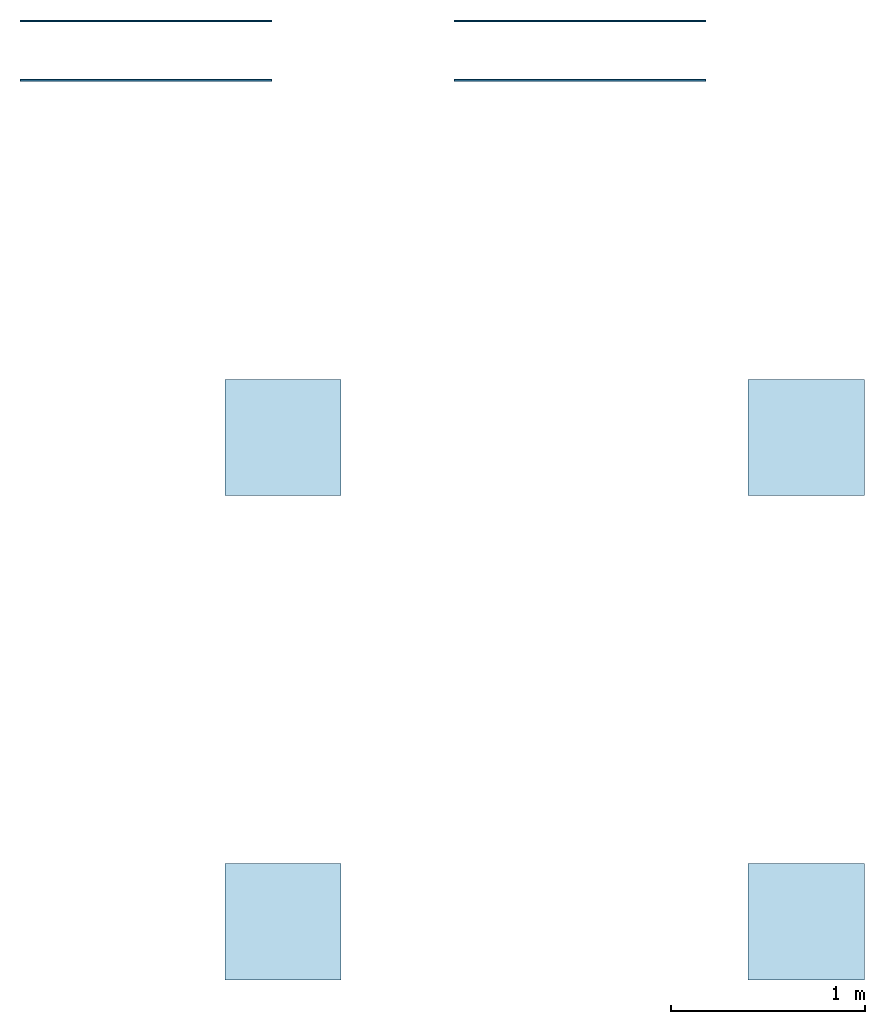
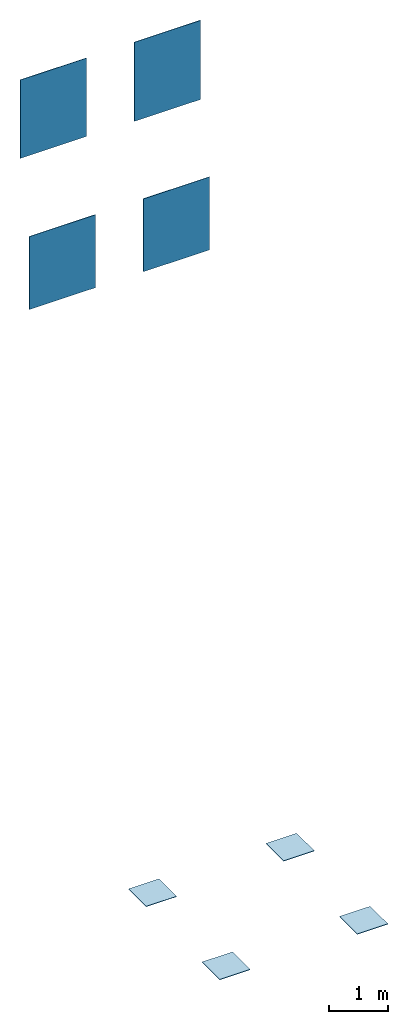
# One storey: 4 slabs, 4 walls.
"""IFC2X3 building model written with IfcOpenShell, lengths in millimetres."""

from ifc_helpers import new_model, entity, si_unit, converted_unit, derived_unit, direction, frame, frame_2d, origin, origin_2d_with_axis, place, context, subcontext, project, spatial, rectangle, extrude, material, layer, layer_set, layer_usage, type_object, element, save


model = new_model("IFC2X3")

# Units and contexts
model_context = context("Model", 3, precision=0.01, world=origin(), true_north=direction((6.12303176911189e-17, 1.0)))
body_context = subcontext(model_context, "Body", "Model", "MODEL_VIEW")
ifc_project = project(units=[si_unit("LENGTHUNIT", "METRE", prefix="MILLI"), si_unit("AREAUNIT", "SQUARE_METRE"), si_unit("VOLUMEUNIT", "CUBIC_METRE"), converted_unit("PLANEANGLEUNIT", "DEGREE", entity("IfcRatioMeasure", 0.0174532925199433), si_unit("PLANEANGLEUNIT", "RADIAN"), dimensions=[0, 0, 0, 0, 0, 0, 0]), si_unit("MASSUNIT", "GRAM", prefix="KILO"), derived_unit("MASSDENSITYUNIT", [(si_unit("MASSUNIT", "GRAM", prefix="KILO"), 1), (si_unit("LENGTHUNIT", "METRE"), -3)]), derived_unit("MOMENTOFINERTIAUNIT", [(si_unit("LENGTHUNIT", "METRE"), 4)]), si_unit("TIMEUNIT", "SECOND"), si_unit("FREQUENCYUNIT", "HERTZ"), si_unit("THERMODYNAMICTEMPERATUREUNIT", "DEGREE_CELSIUS"), derived_unit("THERMALTRANSMITTANCEUNIT", [(si_unit("MASSUNIT", "GRAM", prefix="KILO"), 1), (si_unit("THERMODYNAMICTEMPERATUREUNIT", "KELVIN"), -1), (si_unit("TIMEUNIT", "SECOND"), -3)]), derived_unit("VOLUMETRICFLOWRATEUNIT", [(si_unit("LENGTHUNIT", "METRE"), 3), (si_unit("TIMEUNIT", "SECOND"), -1)]), si_unit("ELECTRICCURRENTUNIT", "AMPERE"), si_unit("ELECTRICVOLTAGEUNIT", "VOLT"), si_unit("POWERUNIT", "WATT"), si_unit("FORCEUNIT", "NEWTON", prefix="KILO"), si_unit("ILLUMINANCEUNIT", "LUX"), si_unit("LUMINOUSFLUXUNIT", "LUMEN"), si_unit("LUMINOUSINTENSITYUNIT", "CANDELA"), derived_unit("USERDEFINED", [(si_unit("MASSUNIT", "GRAM", prefix="KILO"), -1), (si_unit("LENGTHUNIT", "METRE"), -2), (si_unit("TIMEUNIT", "SECOND"), 3), (si_unit("LUMINOUSFLUXUNIT", "LUMEN"), 1)]), derived_unit("LINEARVELOCITYUNIT", [(si_unit("LENGTHUNIT", "METRE"), 1), (si_unit("TIMEUNIT", "SECOND"), -1)]), si_unit("PRESSUREUNIT", "PASCAL"), derived_unit("USERDEFINED", [(si_unit("LENGTHUNIT", "METRE"), -2), (si_unit("MASSUNIT", "GRAM", prefix="KILO"), 1), (si_unit("TIMEUNIT", "SECOND"), -2)]), derived_unit("LINEARFORCEUNIT", [(si_unit("MASSUNIT", "GRAM", prefix="KILO"), 1), (si_unit("LENGTHUNIT", "METRE"), 1), (si_unit("TIMEUNIT", "SECOND"), -2), (si_unit("LENGTHUNIT", "METRE"), -1)]), derived_unit("PLANARFORCEUNIT", [(si_unit("MASSUNIT", "GRAM", prefix="KILO"), 1), (si_unit("LENGTHUNIT", "METRE"), 1), (si_unit("TIMEUNIT", "SECOND"), -2), (si_unit("LENGTHUNIT", "METRE"), -2)])], contexts=[model_context])

# Site, building, storey
site_placement = place(None, origin())
site = spatial("IfcSite", under=ifc_project, at=site_placement, Name="Default", CompositionType="ELEMENT")
building_placement = place(site_placement, origin())
building = spatial("IfcBuilding", under=site, at=building_placement, CompositionType="ELEMENT")
storey_placement = place(building_placement, origin())
storey = spatial("IfcBuildingStorey", under=building, at=storey_placement, Name="Level 0", CompositionType="ELEMENT", Elevation=0.0)

# Slabs
ifc_material_1 = material(Name="Flake-Dark-Medium-60x60 MK60")
ifc_layer_1 = layer(ifc_material_1, 9.0)
ifc_material_2 = material(Name="<Unnamed>")
ifc_layer_2 = layer(ifc_material_2, 1.0)
ifc_layer_set_1 = layer_set([ifc_layer_1, ifc_layer_2], Name="Floor:Floor_Tiles_Refin-Flake-Dark-Medium-60x60 MK60")
ifc_layer_usage_1 = layer_usage(ifc_layer_set_1, "AXIS3", "POSITIVE", 0.0)
slab_type_1 = type_object("IfcSlabType", Name="Floor:Floor_Tiles_Refin-Flake-Dark-Medium-60x60 MK60", PredefinedType="FLOOR", material=ifc_layer_set_1)
slab_1_placement = place(storey_placement, origin())
element("IfcSlab", 1, at=slab_1_placement, inside=storey, type_object=slab_type_1, material=ifc_layer_usage_1, Name="Floor:Floor_Tiles_Refin-Flake-Dark-Medium-60x60 MK60", ObjectType="Floor:Floor_Tiles_Refin-Flake-Dark-Medium-60x60 MK60", PredefinedType="FLOOR", context=body_context, shape_type="SweptSolid", body=[
    extrude(rectangle(XDim=600.0, YDim=600.0, at=origin_2d_with_axis()), frame((7274.37520617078, 5988.41920639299, 0.0), z_axis=(0.0, 0.0, -1.0), x_axis=(0.0, 1.0, 0.0)), (0.0, 0.0, 1.0), 10.0),
])
ifc_material_3 = material(Name="Flake-Dark-Medium-Soft-60x60 MK59")
ifc_layer_3 = layer(ifc_material_3, 9.0)
ifc_layer_4 = layer(ifc_material_2, 1.0)
ifc_layer_set_2 = layer_set([ifc_layer_3, ifc_layer_4], Name="Floor:Floor_Tiles_Refin-Flake-Dark-Medium-Soft-60x60 MK59")
ifc_layer_usage_2 = layer_usage(ifc_layer_set_2, "AXIS3", "POSITIVE", 0.0)
slab_type_2 = type_object("IfcSlabType", Name="Floor:Floor_Tiles_Refin-Flake-Dark-Medium-Soft-60x60 MK59", PredefinedType="FLOOR", material=ifc_layer_set_2)
slab_2_placement = place(storey_placement, origin())
element("IfcSlab", 2, at=slab_2_placement, inside=storey, type_object=slab_type_2, material=ifc_layer_usage_2, Name="Floor:Floor_Tiles_Refin-Flake-Dark-Medium-Soft-60x60 MK59", ObjectType="Floor:Floor_Tiles_Refin-Flake-Dark-Medium-Soft-60x60 MK59", PredefinedType="FLOOR", context=body_context, shape_type="SweptSolid", body=[
    extrude(rectangle(XDim=600.0, YDim=600.0, at=frame_2d((0.0, 1.08002495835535e-12), x_axis=(1.0, 0.0))), frame((9974.37520617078, 5988.41920639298, 0.0), z_axis=(0.0, 0.0, -1.0), x_axis=(0.0, 1.0, 0.0)), (0.0, 0.0, 1.0), 10.0),
])
ifc_material_4 = material(Name="Flake-Dark-Small-60x60 MK68")
ifc_layer_5 = layer(ifc_material_4, 9.0)
ifc_layer_6 = layer(ifc_material_2, 1.0)
ifc_layer_set_3 = layer_set([ifc_layer_5, ifc_layer_6], Name="Floor:Floor_Tiles_Refin-Flake-Dark-Small-60x60 MK68")
ifc_layer_usage_3 = layer_usage(ifc_layer_set_3, "AXIS3", "POSITIVE", 0.0)
slab_type_3 = type_object("IfcSlabType", Name="Floor:Floor_Tiles_Refin-Flake-Dark-Small-60x60 MK68", PredefinedType="FLOOR", material=ifc_layer_set_3)
slab_3_placement = place(storey_placement, origin())
element("IfcSlab", 3, at=slab_3_placement, inside=storey, type_object=slab_type_3, material=ifc_layer_usage_3, Name="Floor:Floor_Tiles_Refin-Flake-Dark-Small-60x60 MK68", ObjectType="Floor:Floor_Tiles_Refin-Flake-Dark-Small-60x60 MK68", PredefinedType="FLOOR", context=body_context, shape_type="SweptSolid", body=[
    extrude(rectangle(XDim=600.0, YDim=600.0, at=origin_2d_with_axis()), frame((7274.37520617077, 3488.41920639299, 0.0), z_axis=(0.0, 0.0, -1.0), x_axis=(0.0, 1.0, 0.0)), (0.0, 0.0, 1.0), 10.0),
])
ifc_material_5 = material(Name="Flake-Dark-Small-Soft-60x60 MK67")
ifc_layer_7 = layer(ifc_material_5, 9.0)
ifc_layer_8 = layer(ifc_material_2, 1.0)
ifc_layer_set_4 = layer_set([ifc_layer_7, ifc_layer_8], Name="Floor:Floor_Tiles_Refin-Flake-Dark-Small-Soft-60x60 MK67")
ifc_layer_usage_4 = layer_usage(ifc_layer_set_4, "AXIS3", "POSITIVE", 0.0)
slab_type_4 = type_object("IfcSlabType", Name="Floor:Floor_Tiles_Refin-Flake-Dark-Small-Soft-60x60 MK67", PredefinedType="FLOOR", material=ifc_layer_set_4)
slab_4_placement = place(storey_placement, origin())
element("IfcSlab", 4, at=slab_4_placement, inside=storey, type_object=slab_type_4, material=ifc_layer_usage_4, Name="Floor:Floor_Tiles_Refin-Flake-Dark-Small-Soft-60x60 MK67", ObjectType="Floor:Floor_Tiles_Refin-Flake-Dark-Small-Soft-60x60 MK67", PredefinedType="FLOOR", context=body_context, shape_type="SweptSolid", body=[
    extrude(rectangle(XDim=600.0, YDim=600.0, at=frame_2d((0.0, 1.08002495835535e-12), x_axis=(1.0, 0.0))), frame((9974.37520617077, 3488.41920639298, 0.0), z_axis=(0.0, 0.0, -1.0), x_axis=(0.0, 1.0, 0.0)), (0.0, 0.0, 1.0), 10.0),
])

# Walls
ifc_layer_9 = layer(ifc_material_2, 1.0)
ifc_layer_10 = layer(ifc_material_3, 9.0)
ifc_layer_set_5 = layer_set([ifc_layer_9, ifc_layer_10], Name="Basic Wall:Wall_Tiles_Refin-Flake-Dark-Medium-Soft-60x60 MK59")
ifc_layer_usage_5 = layer_usage(ifc_layer_set_5, "AXIS2", "NEGATIVE", 5.0)
wall_type_1 = type_object("IfcWallType", Name="Basic Wall:Wall_Tiles_Refin-Flake-Dark-Medium-Soft-60x60 MK59", PredefinedType="STANDARD", material=ifc_layer_set_5)
wall_1_placement = place(storey_placement, frame((8157.37520617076, 8137.38386313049, 14387.6770443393)))
element("IfcWallStandardCase", 5, at=wall_1_placement, inside=storey, type_object=wall_type_1, material=ifc_layer_usage_5, Name="Basic Wall:Wall_Tiles_Refin-Flake-Dark-Medium-Soft-60x60 MK59", ObjectType="Basic Wall:Wall_Tiles_Refin-Flake-Dark-Medium-Soft-60x60 MK59", context=body_context, shape_type="SweptSolid", body=[
    extrude(rectangle(XDim=1300.0, YDim=9.99999999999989, at=frame_2d((650.0, 7.63833440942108e-14), x_axis=(-1.0, 0.0))), origin(), (0.0, 0.0, 1.0), 1641.74173522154),
])
ifc_layer_11 = layer(ifc_material_2, 1.0)
ifc_layer_12 = layer(ifc_material_1, 9.0)
ifc_layer_set_6 = layer_set([ifc_layer_11, ifc_layer_12], Name="Basic Wall:Wall_Tiles_Refin-Flake-Dark-Medium-60x60 MK60")
ifc_layer_usage_6 = layer_usage(ifc_layer_set_6, "AXIS2", "NEGATIVE", 5.0)
wall_type_2 = type_object("IfcWallType", Name="Basic Wall:Wall_Tiles_Refin-Flake-Dark-Medium-60x60 MK60", PredefinedType="STANDARD", material=ifc_layer_set_6)
wall_2_placement = place(storey_placement, frame((5917.37520617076, 8137.38386313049, 14403.726734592)))
element("IfcWallStandardCase", 6, at=wall_2_placement, inside=storey, type_object=wall_type_2, material=ifc_layer_usage_6, Name="Basic Wall:Wall_Tiles_Refin-Flake-Dark-Medium-60x60 MK60", ObjectType="Basic Wall:Wall_Tiles_Refin-Flake-Dark-Medium-60x60 MK60", context=body_context, shape_type="SweptSolid", body=[
    extrude(rectangle(XDim=1300.0, YDim=9.99999999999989, at=frame_2d((650.0, 7.63833440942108e-14), x_axis=(-1.0, 0.0))), origin(), (0.0, 0.0, 1.0), 1625.69204496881),
])
ifc_layer_13 = layer(ifc_material_2, 1.0)
ifc_layer_14 = layer(ifc_material_4, 9.0)
ifc_layer_set_7 = layer_set([ifc_layer_13, ifc_layer_14], Name="Basic Wall:Wall_Tiles_Refin-Flake-Dark-Small-60x60 MK68")
ifc_layer_usage_7 = layer_usage(ifc_layer_set_7, "AXIS2", "NEGATIVE", 5.0)
wall_type_3 = type_object("IfcWallType", Name="Basic Wall:Wall_Tiles_Refin-Flake-Dark-Small-60x60 MK68", PredefinedType="STANDARD", material=ifc_layer_set_7)
wall_3_placement = place(storey_placement, frame((5917.37520617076, 7832.38386313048, 11452.5436262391)))
element("IfcWallStandardCase", 7, at=wall_3_placement, inside=storey, type_object=wall_type_3, material=ifc_layer_usage_7, Name="Basic Wall:Wall_Tiles_Refin-Flake-Dark-Small-60x60 MK68", ObjectType="Basic Wall:Wall_Tiles_Refin-Flake-Dark-Small-60x60 MK68", context=body_context, shape_type="SweptSolid", body=[
    extrude(rectangle(XDim=1300.0, YDim=9.99999999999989, at=frame_2d((650.0, 0.0), x_axis=(-1.0, 0.0))), origin(), (0.0, 0.0, 1.0), 1513.19855655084),
])
ifc_layer_15 = layer(ifc_material_2, 1.0)
ifc_layer_16 = layer(ifc_material_5, 9.0)
ifc_layer_set_8 = layer_set([ifc_layer_15, ifc_layer_16], Name="Basic Wall:Wall_Tiles_Refin-Flake-Dark-Small-Soft-60x60 MK67")
ifc_layer_usage_8 = layer_usage(ifc_layer_set_8, "AXIS2", "NEGATIVE", 5.0)
wall_type_4 = type_object("IfcWallType", Name="Basic Wall:Wall_Tiles_Refin-Flake-Dark-Small-Soft-60x60 MK67", PredefinedType="STANDARD", material=ifc_layer_set_8)
wall_4_placement = place(storey_placement, frame((8157.37520617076, 7832.38386313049, 11452.5436262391)))
element("IfcWallStandardCase", 8, at=wall_4_placement, inside=storey, type_object=wall_type_4, material=ifc_layer_usage_8, Name="Basic Wall:Wall_Tiles_Refin-Flake-Dark-Small-Soft-60x60 MK67", ObjectType="Basic Wall:Wall_Tiles_Refin-Flake-Dark-Small-Soft-60x60 MK67", context=body_context, shape_type="SweptSolid", body=[
    extrude(rectangle(XDim=1300.0, YDim=9.99999999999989, at=frame_2d((650.0, 0.0), x_axis=(-1.0, 0.0))), origin(), (0.0, 0.0, 1.0), 1513.19855655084),
])

save(model, "model.ifc")
